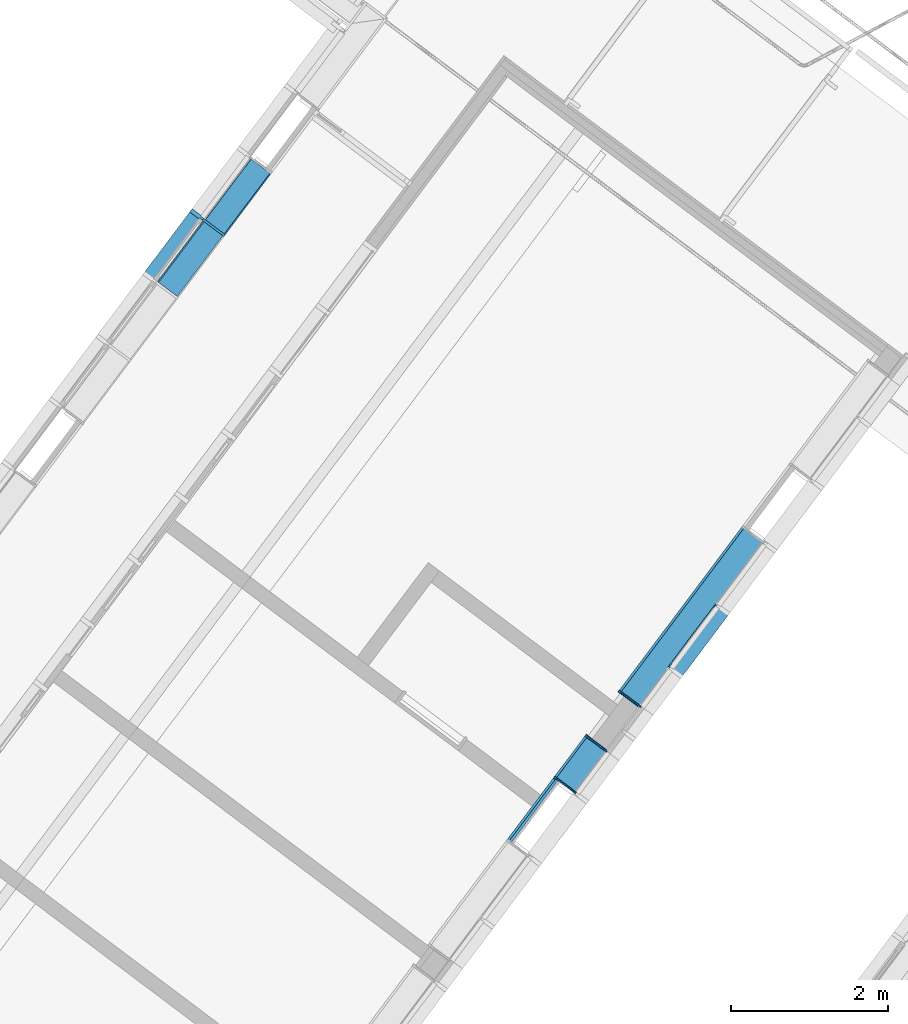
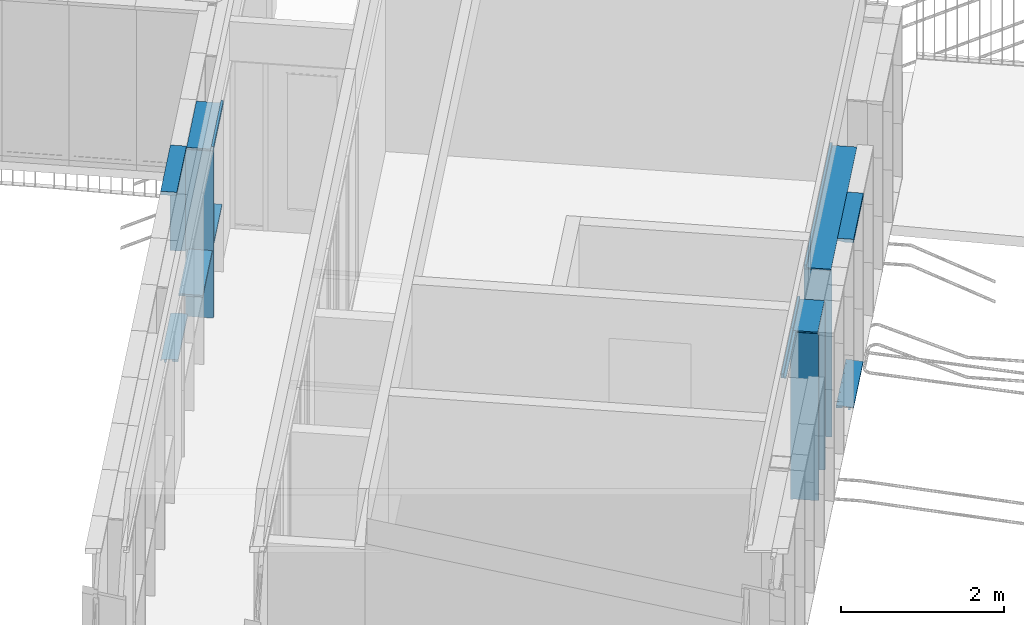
# One storey, part 25 of 243: 16 members, 5 elements without a shape of their own.
"""IFC2X3 building model written with IfcOpenShell, lengths in metres."""

from ifc_helpers import new_model, entity, si_unit, converted_unit, derived_unit, direction, frame, frame_2d, origin, place, context, subcontext, project, spatial, polyline, circle_curve, parameter, trimmed, segment, composite_curve, rectangle, outline, extrude, source, transform, mapped, material, type_object, type_shapes, element, aggregate, save


model = new_model("IFC2X3")

# Units and contexts
model_context = context("Model", 3, precision=1e-05, world=origin(), true_north=direction((6.123031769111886e-17, 1.0)))
body_context = subcontext(model_context, "Body", "Model", "MODEL_VIEW")
ifc_project = project(units=[si_unit("LENGTHUNIT", "METRE"), si_unit("AREAUNIT", "SQUARE_METRE"), si_unit("VOLUMEUNIT", "CUBIC_METRE"), converted_unit("PLANEANGLEUNIT", "DEGREE", entity("IfcRatioMeasure", 0.017453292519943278), si_unit("PLANEANGLEUNIT", "RADIAN"), dimensions=[0, 0, 0, 0, 0, 0, 0]), si_unit("MASSUNIT", "GRAM", prefix="KILO"), derived_unit("MASSDENSITYUNIT", [(si_unit("MASSUNIT", "GRAM", prefix="KILO"), 1), (si_unit("LENGTHUNIT", "METRE"), -3)]), derived_unit("IONCONCENTRATIONUNIT", [(si_unit("MASSUNIT", "GRAM", prefix="KILO"), 1), (si_unit("LENGTHUNIT", "METRE"), -3)]), derived_unit("MOMENTOFINERTIAUNIT", [(si_unit("LENGTHUNIT", "METRE"), 4)]), si_unit("TIMEUNIT", "SECOND"), si_unit("FREQUENCYUNIT", "HERTZ"), si_unit("THERMODYNAMICTEMPERATUREUNIT", "DEGREE_CELSIUS"), derived_unit("THERMALTRANSMITTANCEUNIT", [(si_unit("MASSUNIT", "GRAM", prefix="KILO"), 1), (si_unit("THERMODYNAMICTEMPERATUREUNIT", "KELVIN"), -1), (si_unit("TIMEUNIT", "SECOND"), -3)]), derived_unit("THERMALCONDUCTANCEUNIT", [(si_unit("MASSUNIT", "GRAM", prefix="KILO"), 1), (si_unit("THERMODYNAMICTEMPERATUREUNIT", "KELVIN"), -1), (si_unit("TIMEUNIT", "SECOND"), -3), (si_unit("LENGTHUNIT", "METRE"), 1)]), derived_unit("VOLUMETRICFLOWRATEUNIT", [(si_unit("LENGTHUNIT", "METRE"), 3), (si_unit("TIMEUNIT", "SECOND"), -1)]), derived_unit("MASSFLOWRATEUNIT", [(si_unit("MASSUNIT", "GRAM", prefix="KILO"), 1), (si_unit("TIMEUNIT", "SECOND"), -1)]), derived_unit("ROTATIONALFREQUENCYUNIT", [(si_unit("TIMEUNIT", "SECOND"), -1)]), si_unit("ELECTRICCURRENTUNIT", "AMPERE"), si_unit("ELECTRICVOLTAGEUNIT", "VOLT"), si_unit("POWERUNIT", "WATT"), si_unit("FORCEUNIT", "NEWTON", prefix="KILO"), si_unit("ILLUMINANCEUNIT", "LUX"), si_unit("LUMINOUSFLUXUNIT", "LUMEN"), si_unit("LUMINOUSINTENSITYUNIT", "CANDELA"), derived_unit("USERDEFINED", [(si_unit("MASSUNIT", "GRAM", prefix="KILO"), -1), (si_unit("LENGTHUNIT", "METRE"), -2), (si_unit("TIMEUNIT", "SECOND"), 3), (si_unit("LUMINOUSFLUXUNIT", "LUMEN"), 1)]), derived_unit("USERDEFINED", [(si_unit("MASSUNIT", "GRAM", prefix="KILO"), 1), (si_unit("TIMEUNIT", "SECOND"), -3), (si_unit("LENGTHUNIT", "METRE"), 3), (si_unit("ELECTRICCURRENTUNIT", "AMPERE"), -2)]), derived_unit("SOUNDPOWERUNIT", [(si_unit("MASSUNIT", "GRAM", prefix="KILO"), 1), (si_unit("TIMEUNIT", "SECOND"), -3), (si_unit("LENGTHUNIT", "METRE"), 2)]), derived_unit("SOUNDPRESSUREUNIT", [(si_unit("MASSUNIT", "GRAM", prefix="KILO"), 1), (si_unit("LENGTHUNIT", "METRE"), -1), (si_unit("TIMEUNIT", "SECOND"), -2)]), derived_unit("LINEARVELOCITYUNIT", [(si_unit("LENGTHUNIT", "METRE"), 1), (si_unit("TIMEUNIT", "SECOND"), -1)]), si_unit("PRESSUREUNIT", "PASCAL"), derived_unit("USERDEFINED", [(si_unit("MASSUNIT", "GRAM", prefix="KILO"), 1), (si_unit("LENGTHUNIT", "METRE"), -2), (si_unit("TIMEUNIT", "SECOND"), -2)]), derived_unit("LINEARFORCEUNIT", [(si_unit("MASSUNIT", "GRAM", prefix="KILO"), 1), (si_unit("TIMEUNIT", "SECOND"), -2)]), derived_unit("PLANARFORCEUNIT", [(si_unit("MASSUNIT", "GRAM", prefix="KILO"), 1), (si_unit("LENGTHUNIT", "METRE"), -1), (si_unit("TIMEUNIT", "SECOND"), -2)]), derived_unit("SPECIFICHEATCAPACITYUNIT", [(si_unit("THERMODYNAMICTEMPERATUREUNIT", "KELVIN"), -1), (si_unit("LENGTHUNIT", "METRE"), 2), (si_unit("TIMEUNIT", "SECOND"), -2)]), derived_unit("HEATINGVALUEUNIT", [(si_unit("LENGTHUNIT", "METRE"), 2), (si_unit("TIMEUNIT", "SECOND"), -2)]), derived_unit("VAPORPERMEABILITYUNIT", [(si_unit("LENGTHUNIT", "METRE"), -1), (si_unit("TIMEUNIT", "SECOND"), 1)]), derived_unit("DYNAMICVISCOSITYUNIT", [(si_unit("MASSUNIT", "GRAM", prefix="KILO"), 1), (si_unit("TIMEUNIT", "SECOND"), -1), (si_unit("LENGTHUNIT", "METRE"), -1)]), derived_unit("THERMALEXPANSIONCOEFFICIENTUNIT", [(si_unit("THERMODYNAMICTEMPERATUREUNIT", "KELVIN"), -1)]), derived_unit("MODULUSOFELASTICITYUNIT", [(si_unit("MASSUNIT", "GRAM", prefix="KILO"), 1), (si_unit("LENGTHUNIT", "METRE"), -1), (si_unit("TIMEUNIT", "SECOND"), -2)]), derived_unit("ISOTHERMALMOISTURECAPACITYUNIT", [(si_unit("LENGTHUNIT", "METRE"), 3), (si_unit("MASSUNIT", "GRAM", prefix="KILO"), -1)]), derived_unit("MOISTUREDIFFUSIVITYUNIT", [(si_unit("TIMEUNIT", "SECOND"), -1), (si_unit("LENGTHUNIT", "METRE"), 2)])], contexts=[model_context])

# Site, building, storey
site_placement = place(None, frame((0.0, 0.0, 235.0), z_axis=(0.0, 0.0, 1.0), x_axis=(-0.7996477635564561, 0.6004693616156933, 0.0)))
site = spatial("IfcSite", under=ifc_project, at=site_placement, Name="Default", CompositionType="ELEMENT")
building_placement = place(site_placement, origin())
building = spatial("IfcBuilding", under=site, at=building_placement, CompositionType="ELEMENT")
storey_placement = place(building_placement, origin())
storey = spatial("IfcBuildingStorey", under=building, at=storey_placement, Name="P0- Escola", CompositionType="ELEMENT", Elevation=0.0)

# Curtain wall, members
curtain_wall_type_1 = type_object("IfcCurtainWallType", Name="Muro cortina:MC- EXT- MC2", PredefinedType="NOTDEFINED")
curtain_wall_1_placement = place(storey_placement, origin())
curtain_wall_1 = element("IfcCurtainWall", 1, at=curtain_wall_1_placement, inside=storey, type_object=curtain_wall_type_1, Name="Muro cortina:MC- EXT- MC2", ObjectType="Muro cortina:MC- EXT- MC2")
ifc_material_1 = material(Name="_Alumini- T1- Perfil")
member_type_1 = type_object("IfcMemberType", Name="Montante rectangular:MC- Alu- 140x52,5 cm- Fa patis- Superior", PredefinedType="MULLION", material=ifc_material_1)
shared_shape_1 = source(origin(), body_context, "Body", "SweptSolid", [
    extrude(outline(polyline([(-0.11366666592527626, -0.021249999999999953), (0.026333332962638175, -0.021249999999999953), (0.026333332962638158, -0.010000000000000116), (0.0873333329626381, -0.010000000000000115), (0.0873333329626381, 0.03125000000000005), (-0.11366666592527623, 0.031250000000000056), (-0.11366666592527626, -0.021249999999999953)])), frame((-0.031250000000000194, 0.0273333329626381, -1.0), z_axis=(0.0, 0.0, 1.0), x_axis=(0.0, -1.0, 0.0)), (0.0, 0.0, 1.0), 0.9999999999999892),
])
type_shapes(member_type_1, [shared_shape_1])
member_1_placement = place(curtain_wall_1_placement, frame((28.34514768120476, -33.41519175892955, 2.545), z_axis=(0.0, -1.0, 0.0), x_axis=(0.0, 0.0, 1.0)))
member_1 = element("IfcMember", 2, at=member_1_placement, type_object=member_type_1, material=ifc_material_1, Name="Montante rectangular:MC- Alu- 140x52,5 cm- Fa patis- Superior", ObjectType="Montante rectangular:MC- Alu- 140x52,5 cm- Fa patis- Superior", context=body_context, shape_type="MappedRepresentation", body=[
    mapped(shared_shape_1, transform((0.0, 0.0, 0.0), scale=1.0)),
])
member_type_2 = type_object("IfcMemberType", Name="Montante rectangular:MC- Alu- 140x52,5 cm- Fa patis- inferior", PredefinedType="MULLION", material=ifc_material_1)
shared_shape_2 = source(origin(), body_context, "Body", "SweptSolid", [
    extrude(outline(composite_curve([segment(polyline([(0.1278672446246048, -0.02586710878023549), (0.14416724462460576, -0.025867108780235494)]), True, "CONTINUOUS"), segment(polyline([(0.14416724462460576, -0.025867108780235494), (0.1441672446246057, 0.009132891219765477)]), True, "CONTINUOUS"), segment(polyline([(0.1441672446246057, 0.009132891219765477), (0.06786724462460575, 0.009132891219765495)]), True, "CONTINUOUS"), segment(polyline([(0.06786724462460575, 0.009132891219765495), (0.06786724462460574, -0.021159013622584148)]), True, "CONTINUOUS"), segment(polyline([(0.06786724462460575, -0.02115901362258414), (-0.030132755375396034, -0.012332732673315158)]), True, "CONTINUOUS"), segment(polyline([(-0.03013275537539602, -0.012332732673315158), (-0.030132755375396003, 0.027132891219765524)]), True, "CONTINUOUS"), segment(polyline([(-0.030132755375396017, 0.02713289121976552), (-0.0021327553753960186, 0.02713289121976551)]), True, "CONTINUOUS"), segment(polyline([(-0.0021327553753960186, 0.027132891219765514), (-0.0021327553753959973, 0.029132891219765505)]), True, "CONTINUOUS"), segment(polyline([(-0.0021327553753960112, 0.029132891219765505), (-0.032132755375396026, 0.029132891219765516)]), True, "CONTINUOUS"), segment(polyline([(-0.032132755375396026, 0.029132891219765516), (-0.03213275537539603, -0.012152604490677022)]), True, "CONTINUOUS"), segment(polyline([(-0.03213275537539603, -0.012152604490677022), (-0.0701327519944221, -0.008730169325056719)]), True, "CONTINUOUS"), segment(polyline([(-0.0701327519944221, -0.008730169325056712), (-0.0701327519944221, 0.005766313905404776)]), True, "CONTINUOUS"), segment(trimmed(circle_curve(frame_2d((-0.0696327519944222, 0.0057663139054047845), x_axis=(-1.0, 0.0)), 0.0004999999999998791), [parameter(269.999999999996)], [parameter(0.0)], True, "PARAMETER"), False, "CONTINUOUS"), segment(polyline([(-0.0696327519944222, 0.00626631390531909), (-0.06213275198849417, 0.006266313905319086)]), True, "CONTINUOUS"), segment(polyline([(-0.06213275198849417, 0.006266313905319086), (-0.06213275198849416, 0.008266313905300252)]), True, "CONTINUOUS"), segment(polyline([(-0.06213275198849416, 0.008266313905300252), (-0.07013275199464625, 0.008266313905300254)]), True, "CONTINUOUS"), segment(trimmed(circle_curve(frame_2d((-0.07013275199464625, 0.006266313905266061), x_axis=(0.0, 1.0)), 0.0020000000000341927), [parameter(0.0)], [parameter(90.00000002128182)], True, "PARAMETER"), True, "CONTINUOUS"), segment(polyline([(-0.07213275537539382, 0.006266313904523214), (-0.07213275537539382, -0.008730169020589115)]), True, "CONTINUOUS"), segment(trimmed(circle_curve(frame_2d((-0.07013275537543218, -0.008730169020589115), x_axis=(-1.0, 0.0)), 0.0019999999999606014), [parameter(0.0)], [parameter(84.8535928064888)], True, "PARAMETER"), True, "CONTINUOUS"), segment(polyline([(-0.07031215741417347, -0.01072210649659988), (0.06786724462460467, -0.023167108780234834)]), True, "CONTINUOUS"), segment(polyline([(0.06786724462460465, -0.023167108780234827), (0.12786724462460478, -0.023167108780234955)]), True, "CONTINUOUS"), segment(polyline([(0.12786724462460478, -0.023167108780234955), (0.1278672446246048, -0.02586710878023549)]), True, "CONTINUOUS")], self_intersect=False)), frame((-0.029132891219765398, 0.06786724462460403, -1.0), z_axis=(0.0, 0.0, 1.0), x_axis=(0.0, -1.0, 0.0)), (0.0, 0.0, 1.0), 0.9999999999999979),
])
type_shapes(member_type_2, [shared_shape_2])
member_2_placement = place(curtain_wall_1_placement, frame((28.34514768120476, -32.41519175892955, -0.02), z_axis=(0.0, 1.0, 0.0), x_axis=(0.0, 0.0, -1.0)))
member_2 = element("IfcMember", 3, at=member_2_placement, type_object=member_type_2, material=ifc_material_1, Name="Montante rectangular:MC- Alu- 140x52,5 cm- Fa patis- inferior", ObjectType="Montante rectangular:MC- Alu- 140x52,5 cm- Fa patis- inferior", context=body_context, shape_type="MappedRepresentation", body=[
    mapped(shared_shape_2, transform((0.0, 0.0, 0.0), scale=1.0)),
])
aggregate(curtain_wall_1, [member_2, member_1])

curtain_wall_type_2 = type_object("IfcCurtainWallType", Name="Muro cortina:MC- INT- k7- Aules infantil", PredefinedType="NOTDEFINED")
curtain_wall_2_placement = place(storey_placement, origin())
curtain_wall_2 = element("IfcCurtainWall", 4, at=curtain_wall_2_placement, inside=storey, type_object=curtain_wall_type_2, Name="Muro cortina:MC- INT- k7- Aules infantil", ObjectType="Muro cortina:MC- INT- k7- Aules infantil")
ifc_material_2 = material(Name="_Fusta massisa- T1")
member_type_3 = type_object("IfcMemberType", Name="Montante rectangular:MC- Fusta- 35x3 cm- Pati aules- Remat superior pilar", PredefinedType="MULLION", material=ifc_material_2)
shared_shape_3 = source(origin(), body_context, "Body", "SweptSolid", [
    extrude(outline(polyline([(-0.03333333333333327, -0.02666666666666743), (0.031666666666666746, -0.02666666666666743), (0.031666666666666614, 0.03333333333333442), (0.0016666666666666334, 0.033333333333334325), (0.0016666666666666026, -0.006666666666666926), (-0.03333333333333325, -0.00666666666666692), (-0.03333333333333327, -0.02666666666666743)])), frame((-0.03333333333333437, -0.06333333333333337, -1.0), z_axis=(0.0, 0.0, 1.0), x_axis=(0.0, -1.0, 0.0)), (0.0, 0.0, 1.0), 0.9999999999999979),
])
type_shapes(member_type_3, [shared_shape_3])
member_3_placement = place(curtain_wall_2_placement, frame((28.645147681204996, -30.415191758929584, 2.565), z_axis=(0.0, -1.0, 0.0), x_axis=(0.0, 0.0, 1.0)))
member_3 = element("IfcMember", 5, at=member_3_placement, type_object=member_type_3, material=ifc_material_2, Name="Montante rectangular:MC- Fusta- 35x3 cm- Pati aules- Remat superior pilar", ObjectType="Montante rectangular:MC- Fusta- 35x3 cm- Pati aules- Remat superior pilar", context=body_context, shape_type="MappedRepresentation", body=[
    mapped(shared_shape_3, transform((0.0, 0.0, 0.0), scale=1.0)),
])
member_type_4 = type_object("IfcMemberType", Name="Montante rectangular:MC- Fusta- 35x3 cm- Pati aules- Remat esquerra", PredefinedType="MULLION", material=ifc_material_2)
shared_shape_4 = source(origin(), body_context, "Body", "SweptSolid", [
    extrude(outline(polyline([(0.09500000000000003, -0.013333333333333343), (0.12500000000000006, -0.013333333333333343), (0.12500000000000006, 0.01666666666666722), (-0.22000000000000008, 0.016666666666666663), (-0.22000000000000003, -0.0033333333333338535), (0.09499999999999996, -0.003333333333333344), (0.09500000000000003, -0.013333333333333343)])), frame((-0.0016666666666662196, 0.03000000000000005, -2.504999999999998), z_axis=(0.0, 0.0, 1.0), x_axis=(0.0, -1.0, 0.0)), (0.0, 0.0, 1.0), 2.5049999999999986),
])
type_shapes(member_type_4, [shared_shape_4])
member_4_placement = place(curtain_wall_2_placement, frame((28.645147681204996, -30.415191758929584, 0.0), z_axis=(0.0, 0.0, -1.0), x_axis=(0.0, -1.0, 0.0)))
member_4 = element("IfcMember", 6, at=member_4_placement, type_object=member_type_4, material=ifc_material_2, Name="Montante rectangular:MC- Fusta- 35x3 cm- Pati aules- Remat esquerra", ObjectType="Montante rectangular:MC- Fusta- 35x3 cm- Pati aules- Remat esquerra", context=body_context, shape_type="MappedRepresentation", body=[
    mapped(shared_shape_4, transform((0.0, 0.0, 0.0), scale=1.0)),
])
member_type_5 = type_object("IfcMemberType", Name="Montante rectangular:MC- Fusta- 35x3 cm- Pati aules- Remat dreta", PredefinedType="MULLION", material=ifc_material_2)
shared_shape_5 = source(origin(), body_context, "Body", "SweptSolid", [
    extrude(outline(polyline([(-0.22000000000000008, -0.01666666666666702), (0.12500000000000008, -0.01666666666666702), (0.12500000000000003, 0.013333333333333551), (0.09500000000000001, 0.013333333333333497), (0.09499999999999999, 0.003333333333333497), (-0.22, 0.003333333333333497), (-0.22000000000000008, -0.01666666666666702)])), frame((-0.013333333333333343, 0.030000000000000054, -2.504999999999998), z_axis=(0.0, 0.0, 1.0), x_axis=(0.0, -1.0, 0.0)), (0.0, 0.0, 1.0), 2.5049999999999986),
])
type_shapes(member_type_5, [shared_shape_5])
member_5_placement = place(curtain_wall_2_placement, frame((28.645147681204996, -31.100191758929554, 0.0), z_axis=(0.0, 0.0, -1.0), x_axis=(0.0, -1.0, 0.0)))
member_5 = element("IfcMember", 7, at=member_5_placement, type_object=member_type_5, material=ifc_material_2, Name="Montante rectangular:MC- Fusta- 35x3 cm- Pati aules- Remat dreta", ObjectType="Montante rectangular:MC- Fusta- 35x3 cm- Pati aules- Remat dreta", context=body_context, shape_type="MappedRepresentation", body=[
    mapped(shared_shape_5, transform((0.0, 0.0, 0.0), scale=1.0)),
])

curtain_wall_type_3 = type_object("IfcCurtainWallType", Name="Muro cortina:MC- INT- k2", PredefinedType="NOTDEFINED")
curtain_wall_3_placement = place(storey_placement, origin())
curtain_wall_3 = element("IfcCurtainWall", 8, at=curtain_wall_3_placement, inside=storey, type_object=curtain_wall_type_3, Name="Muro cortina:MC- INT- k2", ObjectType="Muro cortina:MC- INT- k2")
member_type_6 = type_object("IfcMemberType", Name="Montante rectangular:MC- Fusta- 35x3 cm- Centre", PredefinedType="MULLION", material=ifc_material_2)
shared_shape_6 = source(origin(), body_context, "Body", "SweptSolid", [
    extrude(rectangle(XDim=0.3450000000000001, YDim=0.030000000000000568, at=frame_2d((0.0, -1.3964523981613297e-16), x_axis=(1.0, 0.0))), frame((0.0, -0.07750000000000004, -1.0), z_axis=(0.0, 0.0, 1.0), x_axis=(0.0, -1.0, 0.0)), (0.0, 0.0, 1.0), 1.0),
])
type_shapes(member_type_6, [shared_shape_6])
member_6_placement = place(curtain_wall_3_placement, frame((36.345147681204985, -33.41519175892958, 0.0), z_axis=(0.0, 0.0, -1.0), x_axis=(0.0, -1.0, 0.0)))
member_6 = element("IfcMember", 9, at=member_6_placement, type_object=member_type_6, material=ifc_material_2, Name="Montante rectangular:MC- Fusta- 35x3 cm- Centre", ObjectType="Montante rectangular:MC- Fusta- 35x3 cm- Centre", context=body_context, shape_type="MappedRepresentation", body=[
    mapped(shared_shape_6, transform((0.0, 0.0, 0.0), scale=1.0)),
])
member_type_7 = type_object("IfcMemberType", Name="Montante rectangular:MC- Fusta- 35x3 cm- Pati aules- Remat superior", PredefinedType="MULLION", material=ifc_material_2)
shared_shape_7 = source(origin(), body_context, "Body", "SweptSolid", [
    extrude(outline(polyline([(-0.12166666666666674, -0.02666666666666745), (0.21333333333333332, -0.02666666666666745), (0.2133333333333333, -0.006666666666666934), (-0.09166666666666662, -0.006666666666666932), (-0.09166666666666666, 0.03333333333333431), (-0.12166666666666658, 0.03333333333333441), (-0.12166666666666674, -0.02666666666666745)])), frame((-0.033333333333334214, -0.026666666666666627, -1.0), z_axis=(0.0, 0.0, 1.0), x_axis=(0.0, -1.0, 0.0)), (0.0, 0.0, 1.0), 0.9999999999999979),
])
type_shapes(member_type_7, [shared_shape_7])
member_7_placement = place(curtain_wall_3_placement, frame((36.34514768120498, -34.41519175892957, 2.565), z_axis=(0.0, -1.0, 0.0), x_axis=(0.0, 0.0, 1.0)))
member_7 = element("IfcMember", 10, at=member_7_placement, type_object=member_type_7, material=ifc_material_2, Name="Montante rectangular:MC- Fusta- 35x3 cm- Pati aules- Remat superior", ObjectType="Montante rectangular:MC- Fusta- 35x3 cm- Pati aules- Remat superior", context=body_context, shape_type="MappedRepresentation", body=[
    mapped(shared_shape_7, transform((0.0, 0.0, 0.0), scale=1.0)),
])
member_type_8 = type_object("IfcMemberType", Name="Montante rectangular:MC- Fusta- 35x3 cm- Pati aules- Prestatge", PredefinedType="MULLION", material=ifc_material_2)
shared_shape_8 = source(origin(), body_context, "Body", "SweptSolid", [
    extrude(rectangle(XDim=0.30000000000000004, YDim=0.03000000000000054, at=frame_2d((0.0, -1.231653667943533e-16), x_axis=(1.0, 0.0))), frame((0.0, -0.07000000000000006, -0.9699999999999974), z_axis=(0.0, 0.0, 1.0), x_axis=(0.0, -1.0, 0.0)), (0.0, 0.0, 1.0), 0.969999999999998),
])
type_shapes(member_type_8, [shared_shape_8])
member_8_placement = place(curtain_wall_3_placement, frame((36.345147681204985, -33.40019175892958, 1.0), z_axis=(0.0, -1.0, 0.0), x_axis=(0.0, 0.0, 1.0)))
member_8 = element("IfcMember", 11, at=member_8_placement, type_object=member_type_8, material=ifc_material_2, Name="Montante rectangular:MC- Fusta- 35x3 cm- Pati aules- Prestatge", ObjectType="Montante rectangular:MC- Fusta- 35x3 cm- Pati aules- Prestatge", context=body_context, shape_type="MappedRepresentation", body=[
    mapped(shared_shape_8, transform((0.0, 0.0, 0.0), scale=1.0)),
])
member_9_placement = place(curtain_wall_3_placement, frame((36.34514768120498, -34.40019175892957, 1.0), z_axis=(0.0, -1.0, 0.0), x_axis=(0.0, 0.0, 1.0)))
member_9 = element("IfcMember", 12, at=member_9_placement, type_object=member_type_8, material=ifc_material_2, Name="Montante rectangular:MC- Fusta- 35x3 cm- Pati aules- Prestatge", ObjectType="Montante rectangular:MC- Fusta- 35x3 cm- Pati aules- Prestatge", context=body_context, shape_type="MappedRepresentation", body=[
    mapped(shared_shape_8, transform((0.0, 0.0, 0.0), scale=1.0)),
])
member_type_9 = type_object("IfcMemberType", Name="Montante rectangular:MC- Fusta- 35x3 cm- Centre", PredefinedType="MULLION", material=ifc_material_2)
shared_shape_9 = source(origin(), body_context, "Body", "SweptSolid", [
    extrude(rectangle(XDim=0.3450000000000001, YDim=0.030000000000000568, at=frame_2d((0.0, -1.3964523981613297e-16), x_axis=(1.0, 0.0))), frame((0.0, -0.07750000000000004, -1.504999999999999), z_axis=(0.0, 0.0, 1.0), x_axis=(0.0, -1.0, 0.0)), (0.0, 0.0, 1.0), 1.504999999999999),
])
type_shapes(member_type_9, [shared_shape_9])
member_10_placement = place(curtain_wall_3_placement, frame((36.345147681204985, -33.41519175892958, 1.0), z_axis=(0.0, 0.0, -1.0), x_axis=(0.0, -1.0, 0.0)))
member_10 = element("IfcMember", 13, at=member_10_placement, type_object=member_type_9, material=ifc_material_2, Name="Montante rectangular:MC- Fusta- 35x3 cm- Centre", ObjectType="Montante rectangular:MC- Fusta- 35x3 cm- Centre", context=body_context, shape_type="MappedRepresentation", body=[
    mapped(shared_shape_9, transform((0.0, 0.0, 0.0), scale=1.0)),
])
aggregate(curtain_wall_3, [member_6, member_7, member_8, member_9, member_10])

curtain_wall_4_placement = place(storey_placement, origin())
curtain_wall_4 = element("IfcCurtainWall", 14, at=curtain_wall_4_placement, inside=storey, type_object=curtain_wall_type_2, Name="Muro cortina:MC- INT- k7- Aules infantil", ObjectType="Muro cortina:MC- INT- k7- Aules infantil")
member_type_10 = type_object("IfcMemberType", Name="Montante rectangular:MC- Fusta- 35x3 cm- Pati aules- Remat superior", PredefinedType="MULLION", material=ifc_material_2)
shared_shape_10 = source(origin(), body_context, "Body", "SweptSolid", [
    extrude(outline(polyline([(-0.21333333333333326, -0.02666666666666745), (0.1216666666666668, -0.02666666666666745), (0.12166666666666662, 0.03333333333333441), (0.09166666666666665, 0.03333333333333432), (0.09166666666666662, -0.006666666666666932), (-0.2133333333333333, -0.006666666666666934), (-0.21333333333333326, -0.02666666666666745)])), frame((-0.033333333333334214, 0.026666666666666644, -2.641500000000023), z_axis=(0.0, 0.0, 1.0), x_axis=(0.0, -1.0, 0.0)), (0.0, 0.0, 1.0), 2.641500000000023),
])
type_shapes(member_type_10, [shared_shape_10])
member_11_placement = place(curtain_wall_4_placement, frame((28.645147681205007, -34.41519175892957, 2.565), z_axis=(0.0, -1.0, 0.0), x_axis=(0.0, 0.0, 1.0)))
member_11 = element("IfcMember", 15, at=member_11_placement, type_object=member_type_10, material=ifc_material_2, Name="Montante rectangular:MC- Fusta- 35x3 cm- Pati aules- Remat superior", ObjectType="Montante rectangular:MC- Fusta- 35x3 cm- Pati aules- Remat superior", context=body_context, shape_type="MappedRepresentation", body=[
    mapped(shared_shape_10, transform((0.0, 0.0, 0.0), scale=1.0)),
])
member_type_11 = type_object("IfcMemberType", Name="Montante rectangular:MC- Fusta- 35x3 cm- Pati aules- Remat esquerra", PredefinedType="MULLION", material=ifc_material_2)
shared_shape_11 = source(origin(), body_context, "Body", "SweptSolid", [
    extrude(outline(polyline([(-0.22000000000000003, -0.01666666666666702), (0.12500000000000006, -0.01666666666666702), (0.125, 0.013333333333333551), (0.09500000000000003, 0.013333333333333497), (0.09500000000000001, 0.003333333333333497), (-0.22000000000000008, 0.003333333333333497), (-0.22000000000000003, -0.01666666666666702)])), frame((-0.013333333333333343, 0.03000000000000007, -2.504999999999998), z_axis=(0.0, 0.0, 1.0), x_axis=(0.0, -1.0, 0.0)), (0.0, 0.0, 1.0), 2.5049999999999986),
])
type_shapes(member_type_11, [shared_shape_11])
member_12_placement = place(curtain_wall_4_placement, frame((28.645147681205, -31.773691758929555, 2.5049999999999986), z_axis=(0.0, 0.0, 1.0), x_axis=(0.0, 1.0, 0.0)))
member_12 = element("IfcMember", 16, at=member_12_placement, type_object=member_type_11, material=ifc_material_2, Name="Montante rectangular:MC- Fusta- 35x3 cm- Pati aules- Remat esquerra", ObjectType="Montante rectangular:MC- Fusta- 35x3 cm- Pati aules- Remat esquerra", context=body_context, shape_type="MappedRepresentation", body=[
    mapped(shared_shape_11, transform((0.0, 0.0, 0.0), scale=1.0)),
])
aggregate(curtain_wall_4, [member_11, member_12])

# Member
member_type_12 = type_object("IfcMemberType", Name="Montante rectangular:MC- Fusta- 35x3 cm- Pati aules- Remat superior", PredefinedType="MULLION", material=ifc_material_2)
shared_shape_12 = source(origin(), body_context, "Body", "SweptSolid", [
    extrude(outline(polyline([(-0.21333333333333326, -0.02666666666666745), (0.1216666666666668, -0.02666666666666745), (0.12166666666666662, 0.03333333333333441), (0.09166666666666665, 0.03333333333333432), (0.09166666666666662, -0.006666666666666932), (-0.2133333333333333, -0.006666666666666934), (-0.21333333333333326, -0.02666666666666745)])), frame((-0.033333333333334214, 0.026666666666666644, -0.6849999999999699), z_axis=(0.0, 0.0, 1.0), x_axis=(0.0, -1.0, 0.0)), (0.0, 0.0, 1.0), 0.6849999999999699),
])
type_shapes(member_type_12, [shared_shape_12])
member_13_placement = place(curtain_wall_2_placement, frame((28.645147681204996, -31.100191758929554, 2.565), z_axis=(0.0, -1.0, 0.0), x_axis=(0.0, 0.0, 1.0)))
member_13 = element("IfcMember", 17, at=member_13_placement, type_object=member_type_12, material=ifc_material_2, Name="Montante rectangular:MC- Fusta- 35x3 cm- Pati aules- Remat superior", ObjectType="Montante rectangular:MC- Fusta- 35x3 cm- Pati aules- Remat superior", context=body_context, shape_type="MappedRepresentation", body=[
    mapped(shared_shape_12, transform((0.0, 0.0, 0.0), scale=1.0)),
])

aggregate(curtain_wall_2, [member_3, member_4, member_13, member_5])

# Curtain wall, members
curtain_wall_type_4 = type_object("IfcCurtainWallType", Name="Muro cortina:MC- EXT- MC5", PredefinedType="NOTDEFINED")
curtain_wall_5_placement = place(storey_placement, origin())
curtain_wall_5 = element("IfcCurtainWall", 18, at=curtain_wall_5_placement, inside=storey, type_object=curtain_wall_type_4, Name="Muro cortina:MC- EXT- MC5", ObjectType="Muro cortina:MC- EXT- MC5")
member_type_13 = type_object("IfcMemberType", Name="Montante rectangular:MC- Alu- 140x52,5 cm- Fa patis- Superior", PredefinedType="MULLION", material=ifc_material_1)
shared_shape_13 = source(origin(), body_context, "Body", "SweptSolid", [
    extrude(outline(polyline([(-0.026333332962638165, -0.021249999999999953), (0.11366666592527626, -0.021249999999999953), (0.11366666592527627, 0.031250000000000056), (-0.08733333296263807, 0.03125000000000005), (-0.0873333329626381, -0.010000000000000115), (-0.026333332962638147, -0.010000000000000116), (-0.026333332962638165, -0.021249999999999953)])), frame((-0.031250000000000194, -0.02733333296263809, -1.0), z_axis=(0.0, 0.0, 1.0), x_axis=(0.0, -1.0, 0.0)), (0.0, 0.0, 1.0), 1.0000000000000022),
])
type_shapes(member_type_13, [shared_shape_13])
member_14_placement = place(curtain_wall_5_placement, frame((36.64514768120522, -33.415191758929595, 2.545), z_axis=(0.0, -1.0, 0.0), x_axis=(0.0, 0.0, 1.0)))
member_14 = element("IfcMember", 19, at=member_14_placement, type_object=member_type_13, material=ifc_material_1, Name="Montante rectangular:MC- Alu- 140x52,5 cm- Fa patis- Superior", ObjectType="Montante rectangular:MC- Alu- 140x52,5 cm- Fa patis- Superior", context=body_context, shape_type="MappedRepresentation", body=[
    mapped(shared_shape_13, transform((0.0, 0.0, 0.0), scale=1.0)),
])
member_type_14 = type_object("IfcMemberType", Name="Montante rectangular:MC- Alu- 140x52,5 cm- Fa patis- inferior", PredefinedType="MULLION", material=ifc_material_1)
shared_shape_14 = source(origin(), body_context, "Body", "SweptSolid", [
    extrude(outline(composite_curve([segment(polyline([(-0.144167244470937, -0.02586710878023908), (-0.12786724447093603, -0.025867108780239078)]), True, "CONTINUOUS"), segment(polyline([(-0.12786724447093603, -0.025867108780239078), (-0.12786724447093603, -0.023167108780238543)]), True, "CONTINUOUS"), segment(polyline([(-0.12786724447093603, -0.023167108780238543), (-0.0678672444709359, -0.023167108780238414)]), True, "CONTINUOUS"), segment(polyline([(-0.0678672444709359, -0.023167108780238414), (0.07031215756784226, -0.01072210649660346)]), True, "CONTINUOUS"), segment(trimmed(circle_curve(frame_2d((0.07013275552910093, -0.00873016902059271), x_axis=(0.0897010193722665, -0.9959687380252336)), 0.0019999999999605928), [parameter(0.0)], [parameter(84.85359280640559)], True, "PARAMETER"), True, "CONTINUOUS"), segment(polyline([(0.07213275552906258, -0.008730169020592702), (0.07213275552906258, 0.006266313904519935)]), True, "CONTINUOUS"), segment(trimmed(circle_curve(frame_2d((0.070132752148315, 0.0062663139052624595), x_axis=(1.0, 0.0)), 0.0020000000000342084), [parameter(0.0)], [parameter(90.00000002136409)], True, "PARAMETER"), True, "CONTINUOUS"), segment(polyline([(0.070132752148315, 0.008266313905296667), (0.06213275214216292, 0.008266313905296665)]), True, "CONTINUOUS"), segment(polyline([(0.06213275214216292, 0.008266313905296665), (0.06213275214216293, 0.006266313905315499)]), True, "CONTINUOUS"), segment(polyline([(0.06213275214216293, 0.006266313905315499), (0.06963275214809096, 0.006266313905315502)]), True, "CONTINUOUS"), segment(trimmed(circle_curve(frame_2d((0.06963275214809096, 0.005766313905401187), x_axis=(0.0, 1.0)), 0.000499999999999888), [parameter(269.9999999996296)], [parameter(0.0)], True, "PARAMETER"), False, "CONTINUOUS"), segment(polyline([(0.07013275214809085, 0.005766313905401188), (0.07013275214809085, -0.0087301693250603)]), True, "CONTINUOUS"), segment(polyline([(0.07013275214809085, -0.0087301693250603), (0.03213275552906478, -0.01215260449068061)]), True, "CONTINUOUS"), segment(polyline([(0.03213275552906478, -0.012152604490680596), (0.03213275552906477, 0.02913289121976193)]), True, "CONTINUOUS"), segment(polyline([(0.03213275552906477, 0.02913289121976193), (0.0021327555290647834, 0.029132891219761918)]), True, "CONTINUOUS"), segment(polyline([(0.0021327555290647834, 0.029132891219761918), (0.0021327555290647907, 0.027132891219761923)]), True, "CONTINUOUS"), segment(polyline([(0.0021327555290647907, 0.027132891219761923), (0.03013275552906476, 0.027132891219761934)]), True, "CONTINUOUS"), segment(polyline([(0.03013275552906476, 0.027132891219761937), (0.03013275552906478, -0.012332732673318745)]), True, "CONTINUOUS"), segment(polyline([(0.03013275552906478, -0.012332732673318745), (-0.06786724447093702, -0.02115901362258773)]), True, "CONTINUOUS"), segment(polyline([(-0.06786724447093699, -0.021159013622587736), (-0.067867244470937, 0.009132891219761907)]), True, "CONTINUOUS"), segment(polyline([(-0.06786724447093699, 0.009132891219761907), (-0.14416724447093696, 0.00913289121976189)]), True, "CONTINUOUS"), segment(polyline([(-0.14416724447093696, 0.00913289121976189), (-0.144167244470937, -0.02586710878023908)]), True, "CONTINUOUS")], self_intersect=False)), frame((-0.02913289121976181, -0.06786724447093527, -1.0), z_axis=(0.0, 0.0, 1.0), x_axis=(0.0, -1.0, 0.0)), (0.0, 0.0, 1.0), 0.9999999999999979),
])
type_shapes(member_type_14, [shared_shape_14])
member_15_placement = place(curtain_wall_5_placement, frame((36.64514768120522, -32.415191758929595, -0.02), z_axis=(0.0, 1.0, 0.0), x_axis=(0.0, 0.0, -1.0)))
member_15 = element("IfcMember", 20, at=member_15_placement, type_object=member_type_14, material=ifc_material_1, Name="Montante rectangular:MC- Alu- 140x52,5 cm- Fa patis- inferior", ObjectType="Montante rectangular:MC- Alu- 140x52,5 cm- Fa patis- inferior", context=body_context, shape_type="MappedRepresentation", body=[
    mapped(shared_shape_14, transform((0.0, 0.0, 0.0), scale=1.0)),
])
member_type_15 = type_object("IfcMemberType", Name="Montante rectangular:MC- Alu- 140x52,5 cm- Fa patis- Centre", PredefinedType="MULLION", material=ifc_material_1)
shared_shape_15 = source(origin(), body_context, "Body", "SweptSolid", [
    extrude(outline(polyline([(-0.021999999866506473, -0.026250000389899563), (0.11699999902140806, -0.026250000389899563), (0.11699999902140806, 0.026250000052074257), (-0.022000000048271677, 0.026250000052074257), (-0.022000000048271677, 0.015000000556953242), (-0.07299999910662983, 0.015000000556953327), (-0.07299999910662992, -0.01500000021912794), (-0.021999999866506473, -0.01500000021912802), (-0.021999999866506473, -0.026250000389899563)])), frame((0.0, -0.022999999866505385, -1.5124999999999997), z_axis=(0.0, 0.0, 1.0), x_axis=(0.0, -1.0, 0.0)), (0.0, 0.0, 1.0), 1.5124999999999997),
])
type_shapes(member_type_15, [shared_shape_15])
member_16_placement = place(curtain_wall_5_placement, frame((36.64514768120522, -33.415191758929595, 0.98), z_axis=(0.0, 0.0, -1.0), x_axis=(0.0, -1.0, 0.0)))
member_16 = element("IfcMember", 21, at=member_16_placement, type_object=member_type_15, material=ifc_material_1, Name="Montante rectangular:MC- Alu- 140x52,5 cm- Fa patis- Centre", ObjectType="Montante rectangular:MC- Alu- 140x52,5 cm- Fa patis- Centre", context=body_context, shape_type="MappedRepresentation", body=[
    mapped(shared_shape_15, transform((0.0, 0.0, 0.0), scale=1.0)),
])
aggregate(curtain_wall_5, [member_15, member_14, member_16])

save(model, "model.ifc")
